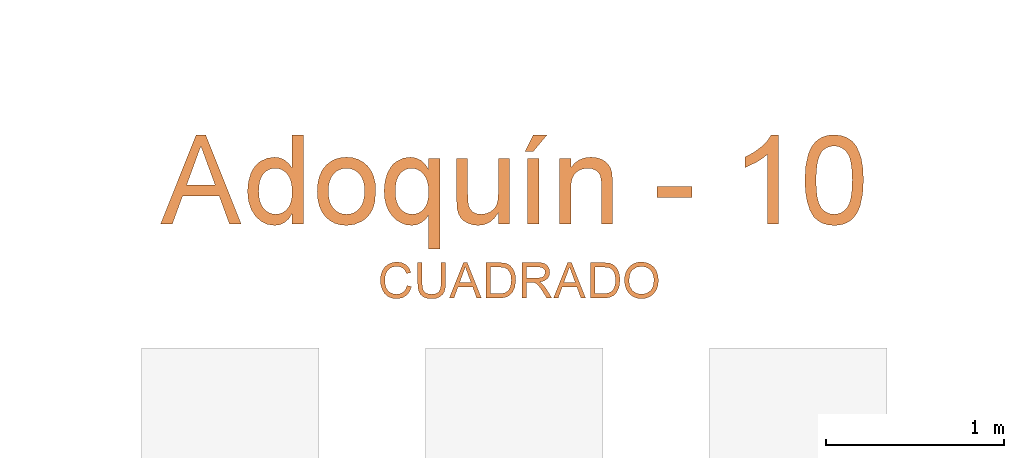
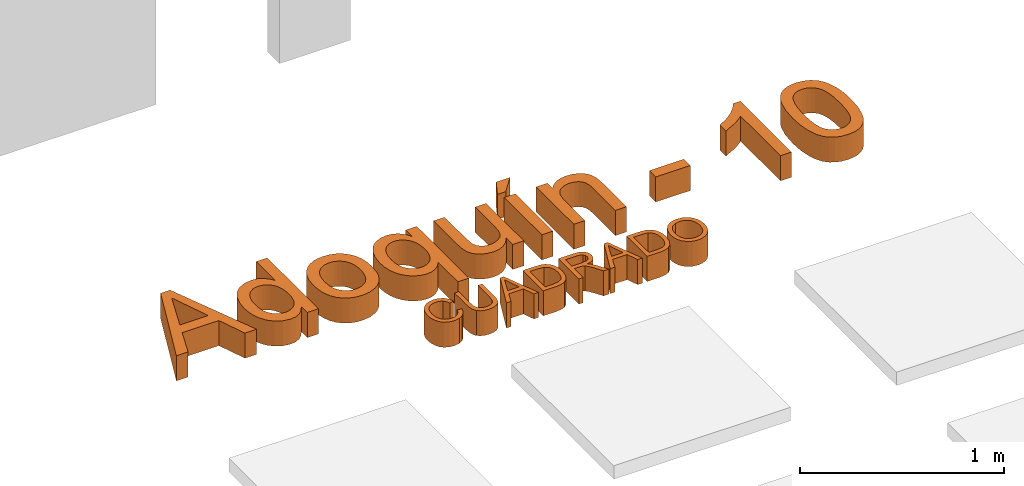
# One storey, part 9 of 19: 2 proxies.
"""IFC2X3 building model written with IfcOpenShell, lengths in metres."""

from ifc_helpers import new_model, entity, si_unit, converted_unit, derived_unit, direction, frame, frame_2d, origin, origin_2d_with_axis, place, context, subcontext, project, spatial, polyline, rectangle, outline, extrude, type_object, element, save


model = new_model("IFC2X3")

# Units and contexts
model_context = context("Model", 3, precision=1e-05, world=origin(), true_north=direction((6.12303176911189e-17, 1.0)))
body_context = subcontext(model_context, "Body", "Model", "MODEL_VIEW")
ifc_project = project(units=[si_unit("LENGTHUNIT", "METRE"), si_unit("AREAUNIT", "SQUARE_METRE"), si_unit("VOLUMEUNIT", "CUBIC_METRE"), converted_unit("PLANEANGLEUNIT", "DEGREE", entity("IfcRatioMeasure", 0.0174532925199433), si_unit("PLANEANGLEUNIT", "RADIAN"), dimensions=[0, 0, 0, 0, 0, 0, 0]), si_unit("MASSUNIT", "GRAM", prefix="KILO"), derived_unit("MASSDENSITYUNIT", [(si_unit("MASSUNIT", "GRAM", prefix="KILO"), 1), (si_unit("LENGTHUNIT", "METRE"), -3)]), derived_unit("MOMENTOFINERTIAUNIT", [(si_unit("LENGTHUNIT", "METRE"), 4)]), si_unit("TIMEUNIT", "SECOND"), si_unit("FREQUENCYUNIT", "HERTZ"), si_unit("THERMODYNAMICTEMPERATUREUNIT", "DEGREE_CELSIUS"), derived_unit("THERMALTRANSMITTANCEUNIT", [(si_unit("MASSUNIT", "GRAM", prefix="KILO"), 1), (si_unit("THERMODYNAMICTEMPERATUREUNIT", "KELVIN"), -1), (si_unit("TIMEUNIT", "SECOND"), -3)]), derived_unit("VOLUMETRICFLOWRATEUNIT", [(si_unit("LENGTHUNIT", "METRE"), 3), (si_unit("TIMEUNIT", "SECOND"), -1)]), si_unit("ELECTRICCURRENTUNIT", "AMPERE"), si_unit("ELECTRICVOLTAGEUNIT", "VOLT"), si_unit("POWERUNIT", "WATT"), si_unit("FORCEUNIT", "NEWTON", prefix="KILO"), si_unit("ILLUMINANCEUNIT", "LUX"), si_unit("LUMINOUSFLUXUNIT", "LUMEN"), si_unit("LUMINOUSINTENSITYUNIT", "CANDELA"), derived_unit("USERDEFINED", [(si_unit("MASSUNIT", "GRAM", prefix="KILO"), -1), (si_unit("LENGTHUNIT", "METRE"), -2), (si_unit("TIMEUNIT", "SECOND"), 3), (si_unit("LUMINOUSFLUXUNIT", "LUMEN"), 1)]), derived_unit("LINEARVELOCITYUNIT", [(si_unit("LENGTHUNIT", "METRE"), 1), (si_unit("TIMEUNIT", "SECOND"), -1)]), si_unit("PRESSUREUNIT", "PASCAL"), derived_unit("USERDEFINED", [(si_unit("LENGTHUNIT", "METRE"), -2), (si_unit("MASSUNIT", "GRAM", prefix="KILO"), 1), (si_unit("TIMEUNIT", "SECOND"), -2)]), derived_unit("LINEARFORCEUNIT", [(si_unit("MASSUNIT", "GRAM", prefix="KILO"), 1), (si_unit("LENGTHUNIT", "METRE"), 1), (si_unit("TIMEUNIT", "SECOND"), -2), (si_unit("LENGTHUNIT", "METRE"), -1)]), derived_unit("PLANARFORCEUNIT", [(si_unit("MASSUNIT", "GRAM", prefix="KILO"), 1), (si_unit("LENGTHUNIT", "METRE"), 1), (si_unit("TIMEUNIT", "SECOND"), -2), (si_unit("LENGTHUNIT", "METRE"), -2)])], contexts=[model_context])

# Site, building, storey
site_placement = place(None, origin())
site = spatial("IfcSite", under=ifc_project, at=site_placement, Name="Default", CompositionType="ELEMENT")
building_placement = place(site_placement, origin())
building = spatial("IfcBuilding", under=site, at=building_placement, CompositionType="ELEMENT")
storey_placement = place(building_placement, origin())
storey = spatial("IfcBuildingStorey", under=building, at=storey_placement, Name="Nivel 1", CompositionType="ELEMENT", Elevation=0.0)

# Proxies
building_element_proxy_type_1 = type_object("IfcBuildingElementProxyType", Name="Texto de modelo:Título", PredefinedType="NOTDEFINED")
proxy_1_placement = place(storey_placement, origin())
element("IfcBuildingElementProxy", 1, at=proxy_1_placement, inside=storey, type_object=building_element_proxy_type_1, Name="Texto de modelo:Título", ObjectType="Texto de modelo:Título", context=body_context, shape_type="SweptSolid", body=[
    extrude(outline(polyline([(-0.227151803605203, -0.164811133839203), (-0.160933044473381, -0.164811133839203), (-0.103543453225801, -0.00784814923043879), (0.103451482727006, -0.00784814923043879), (0.160841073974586, -0.164811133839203), (0.227182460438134, -0.164811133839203), (0.0268094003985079, 0.337470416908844), (-0.0266561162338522, 0.337470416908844), (-0.227151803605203, -0.164811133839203)]), holes=[polyline([(-0.0804895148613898, 0.0549370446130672), (-0.0313159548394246, 0.189213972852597), (-4.59852493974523e-05, 0.274685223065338), (0.0351480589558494, 0.178422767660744), (0.0805201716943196, 0.0549370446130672), (-0.0804895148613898, 0.0549370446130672)])]), frame((-5.11429991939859, 3.07833883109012, 0.0)), (0.0, 0.0, 1.0), 0.15),
    extrude(outline(polyline([(0.111602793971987, -0.204691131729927), (0.174387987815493, -0.204691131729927), (0.174387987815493, 0.29759041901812), (0.111602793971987, 0.29759041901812), (0.111602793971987, 0.110461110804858), (0.0933006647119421, 0.135247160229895), (0.0702773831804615, 0.154913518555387), (0.0431154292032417, 0.167743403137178), (0.0123972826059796, 0.172020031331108), (-0.0297711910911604, 0.166041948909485), (-0.0677396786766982, 0.148107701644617), (-0.0845549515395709, 0.134840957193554), (-0.0991322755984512, 0.118953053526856), (-0.11147165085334, 0.100443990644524), (-0.121573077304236, 0.0793137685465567), (-0.135046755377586, 0.0318876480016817), (-0.139537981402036, -0.0206275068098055), (-0.134663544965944, -0.0738017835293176), (-0.120040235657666, -0.120507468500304), (-0.0965571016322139, -0.159181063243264), (-0.065103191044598, -0.188259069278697), (-0.0279471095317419, -0.206469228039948), (0.0126425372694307, -0.212539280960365), (0.043337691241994, -0.208346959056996), (0.0700627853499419, -0.19576999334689), (0.0928178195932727, -0.174808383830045), (0.111602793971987, -0.145462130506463), (0.111602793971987, -0.204691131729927)]), holes=[polyline([(-0.0767527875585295, -0.0203822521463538), (-0.0750973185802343, 0.0109681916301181), (-0.0701309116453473, 0.0378197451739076), (-0.0618535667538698, 0.0601724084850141), (-0.0502652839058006, 0.0780261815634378), (-0.0362014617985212, 0.0916799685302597), (-0.020497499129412, 0.101432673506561), (-0.00315339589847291, 0.107284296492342), (0.015830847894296, 0.109234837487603), (0.0352634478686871, 0.107203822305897), (0.053094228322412, 0.101110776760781), (0.0693231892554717, 0.0909557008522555), (0.0839503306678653, 0.0767385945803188), (0.0960482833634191, 0.0581835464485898), (0.104689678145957, 0.0350146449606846), (0.10987451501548, 0.00723189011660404), (0.111602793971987, -0.0251647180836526), (0.109905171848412, -0.0547140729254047), (0.104812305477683, -0.0802090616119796), (0.0963241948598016, -0.101649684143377), (0.084440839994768, -0.119035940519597), (0.0701279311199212, -0.132475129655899), (0.0543511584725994, -0.142074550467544), (0.0371105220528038, -0.14783420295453), (0.0184060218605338, -0.149754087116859), (-0.000210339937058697, -0.147742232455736), (-0.0175544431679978, -0.141706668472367), (-0.0336262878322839, -0.131647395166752), (-0.0484258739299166, -0.11756441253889), (-0.0608188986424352, -0.0994193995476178), (-0.0696710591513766, -0.0771740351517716), (-0.0749823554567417, -0.0508283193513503), (-0.0767527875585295, -0.0203822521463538)])]), frame((-4.71189492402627, 3.11821882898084, 0.0)), (0.0, 0.0, 1.0), 0.15),
    extrude(outline(polyline([(-0.0131957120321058, -0.170548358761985), (0.0307665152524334, -0.170548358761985), (0.0696520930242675, -0.16451238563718), (0.103461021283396, -0.152440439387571), (0.132193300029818, -0.134332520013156), (0.155411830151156, -0.111243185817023), (0.172679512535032, -0.0842269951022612), (0.183996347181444, -0.0532839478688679), (0.189362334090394, -0.0184140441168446), (0.186618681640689, 0.0261717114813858), (0.172415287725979, 0.0679068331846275), (0.161237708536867, 0.0869767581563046), (0.147638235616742, 0.103876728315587), (0.131616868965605, 0.118606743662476), (0.113173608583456, 0.131166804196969), (0.0915479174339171, 0.141494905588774), (0.0659792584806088, 0.149529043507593), (0.00301303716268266, 0.158715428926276), (-0.0385534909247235, 0.158529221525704), (-0.0757586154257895, 0.152292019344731), (-0.108602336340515, 0.140003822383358), (-0.137084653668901, 0.121664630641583), (-0.160392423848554, 0.0984428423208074), (-0.177712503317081, 0.071506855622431), (-0.189044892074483, 0.0408566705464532), (-0.194389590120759, 0.00649228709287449), (-0.1938749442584, -0.0249843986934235), (-0.18810582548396, -0.054313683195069), (-0.177082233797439, -0.0814955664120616), (-0.160804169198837, -0.106530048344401), (-0.134450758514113, -0.132057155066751), (-0.101064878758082, -0.151235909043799), (-0.0606465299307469, -0.164066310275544), (-0.0131957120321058, -0.170548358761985)]), holes=[polyline([(-0.00925174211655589, -0.107887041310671), (-0.0395162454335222, -0.104102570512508), (-0.0654537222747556, -0.0969584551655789), (-0.0870641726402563, -0.0864546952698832), (-0.104347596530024, -0.0725912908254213), (-0.117399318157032, -0.0562452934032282), (-0.126314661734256, -0.0382937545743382), (-0.131093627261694, -0.0187366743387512), (-0.131736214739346, 0.00242594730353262), (-0.128372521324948, 0.0230712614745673), (-0.121092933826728, 0.0416882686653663), (-0.109897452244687, 0.0582769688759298), (-0.0947860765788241, 0.0728373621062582), (-0.0759345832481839, 0.0844361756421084), (-0.0535187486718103, 0.0921401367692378), (-0.0275385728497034, 0.0959492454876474), (0.00200594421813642, 0.0958635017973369), (0.0329855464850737, 0.0920326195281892), (0.0594775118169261, 0.0848525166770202), (0.0814818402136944, 0.0743231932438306), (0.0989985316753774, 0.0604446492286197), (0.112185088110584, 0.0441052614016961), (0.121199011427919, 0.0261934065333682), (0.126040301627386, 0.00670908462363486), (0.126708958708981, -0.0143477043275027), (0.123328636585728, -0.0352492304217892), (0.116038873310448, -0.0540230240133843), (0.10483966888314, -0.0706690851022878), (0.0897310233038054, -0.0851874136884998), (0.070747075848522, -0.0966969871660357), (0.0479219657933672, -0.104316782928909), (0.0212556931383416, -0.108046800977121), (-0.00925174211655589, -0.107887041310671)])]), frame((-4.28798052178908, 3.09583691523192, 0.0), z_axis=(0.0, 0.0, 1.0), x_axis=(0.0647659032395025, -0.997900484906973, 0.0)), (0.0, 0.0, 1.0), 0.15),
    extrude(outline(polyline([(0.11312234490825, -0.311998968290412), (0.175907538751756, -0.311998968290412), (0.175907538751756, 0.198130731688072), (0.11312234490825, 0.198130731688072), (0.11312234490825, 0.135590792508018), (0.092674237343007, 0.166385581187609), (0.0687312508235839, 0.188381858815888), (0.0412933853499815, 0.201579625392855), (0.0103606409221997, 0.205978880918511), (-0.0296465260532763, 0.200307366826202), (-0.0662814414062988, 0.183292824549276), (-0.0827211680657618, 0.170616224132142), (-0.0970915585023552, 0.155272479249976), (-0.119624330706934, 0.11658355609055), (-0.133419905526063, 0.0697092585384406), (-0.138018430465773, 0.0171327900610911), (-0.135121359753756, -0.0259975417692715), (-0.126430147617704, -0.0642764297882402), (-0.111944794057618, -0.0977038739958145), (-0.0916652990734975, -0.126279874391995), (-0.0673774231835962, -0.149161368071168), (-0.0408669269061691, -0.165505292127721), (-0.012133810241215, -0.175311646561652), (0.018821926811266, -0.178580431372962), (0.046842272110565, -0.174441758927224), (0.073268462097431, -0.162025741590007), (0.0960464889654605, -0.143355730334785), (0.11312234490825, -0.120455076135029), (0.11312234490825, -0.311998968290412)]), holes=[polyline([(-0.0752332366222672, 0.0136992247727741), (-0.0735586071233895, 0.0447967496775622), (-0.0685347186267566, 0.0715026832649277), (-0.0601615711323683, 0.0938170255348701), (-0.0484391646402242, 0.111739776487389), (-0.0343101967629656, 0.125500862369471), (-0.0187173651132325, 0.135330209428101), (-0.0016606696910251, 0.141227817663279), (0.0168598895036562, 0.143193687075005), (0.0356103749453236, 0.141082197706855), (0.0531115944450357, 0.134747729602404), (0.0693635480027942, 0.124190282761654), (0.0843662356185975, 0.109409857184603), (0.0969470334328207, 0.0904447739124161), (0.105933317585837, 0.0673333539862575), (0.111325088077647, 0.0400755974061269), (0.11312234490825, 0.0086715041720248), (0.111417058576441, -0.0207743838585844), (0.106301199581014, -0.04620422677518), (0.0977747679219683, -0.0676180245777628), (0.0858377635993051, -0.0850157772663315), (0.0715401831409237, -0.0984817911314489), (0.0559320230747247, -0.108100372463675), (0.0390132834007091, -0.113871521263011), (0.0207839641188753, -0.115795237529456), (0.00174223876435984, -0.113771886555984), (-0.0158969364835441, -0.107701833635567), (-0.0321335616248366, -0.0975850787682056), (-0.0469676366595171, -0.0834216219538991), (-0.0593338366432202, -0.0652114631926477), (-0.0681668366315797, -0.0429546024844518), (-0.0734666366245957, -0.0166510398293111), (-0.0752332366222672, 0.0136992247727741)])]), frame((-3.94429585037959, 3.08425997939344, 0.0)), (0.0, 0.0, 1.0), 0.15),
    extrude(outline(polyline([(0.099374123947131, -0.102697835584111), (0.162159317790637, -0.102697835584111), (0.162159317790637, 0.266165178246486), (0.099374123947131, 0.266165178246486), (0.099374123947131, 0.0742534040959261), (0.0968296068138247, 0.0338323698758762), (0.0891960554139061, 0.00429451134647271), (0.0754464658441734, -0.0172725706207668), (0.0545538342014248, -0.0337812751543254), (0.0292159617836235, -0.0442659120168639), (0.00213064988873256, -0.0477607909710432), (-0.0234831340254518, -0.0443425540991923), (-0.0446516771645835, -0.0340878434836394), (-0.060332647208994, -0.0178550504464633), (-0.0694837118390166, 0.00349743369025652), (-0.0732851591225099, 0.067508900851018), (-0.0732851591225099, 0.266165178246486), (-0.136070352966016, 0.266165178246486), (-0.136070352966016, 0.037955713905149), (-0.132391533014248, -0.0204148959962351), (-0.125018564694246, -0.0456454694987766), (-0.113690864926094, -0.0666454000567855), (-0.0968602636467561, -0.0839358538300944), (-0.0729785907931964, -0.098037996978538), (-0.0445137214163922, -0.107418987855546), (-0.0139335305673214, -0.110545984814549), (0.020003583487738, -0.106093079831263), (0.0502005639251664, -0.0927343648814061), (0.0766574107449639, -0.0704698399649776), (0.099374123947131, -0.0392995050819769), (0.099374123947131, -0.102697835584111)])), frame((-3.53814016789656, 3.01622553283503, 0.0)), (0.0, 0.0, 1.0), 0.15),
    extrude(outline(polyline([(-0.0549370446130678, -0.0470888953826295), (-0.00784814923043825, -0.0470888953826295), (0.0706333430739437, 0.0470888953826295), (-0.00784814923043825, 0.0470888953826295), (-0.0549370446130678, -0.0470888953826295)])), frame((-3.23471416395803, 3.36872035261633, 0.0)), (0.0, 0.0, 1.0), 0.15),
    extrude(outline(polyline([(-0.160354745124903, -0.269066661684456), (-0.0975695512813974, -0.269066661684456), (-0.0975695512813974, -0.0733534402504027), (-0.0957799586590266, -0.0416619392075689), (-0.0904111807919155, -0.0155039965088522), (-0.0814632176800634, 0.00512038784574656), (-0.0689360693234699, 0.0202112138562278), (-0.0539410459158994, 0.0309947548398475), (-0.0375894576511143, 0.0386972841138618), (-0.0198813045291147, 0.0433188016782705), (-0.000816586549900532, 0.0448593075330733), (0.0223446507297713, 0.0421155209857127), (0.0422869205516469, 0.0338841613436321), (0.0578452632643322, 0.0210542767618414), (0.0678547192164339, 0.00451491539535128), (0.0732809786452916, -0.0185696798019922), (0.0750897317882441, -0.0510352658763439), (0.0750897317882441, -0.269066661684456), (0.13787492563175, -0.269066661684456), (0.13787492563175, -0.0425739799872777), (0.134563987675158, 0.0181265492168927), (0.127160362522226, 0.0430352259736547), (0.115740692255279, 0.0642957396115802), (0.0989100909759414, 0.0818621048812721), (0.0752736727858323, 0.0956883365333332), (0.0469314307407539, 0.104655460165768), (0.0159833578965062, 0.107644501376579), (-0.0189807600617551, 0.10393502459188), (-0.0495609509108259, 0.0928065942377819), (-0.0757572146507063, 0.074259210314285), (-0.0975695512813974, 0.0482928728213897), (-0.0975695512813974, 0.0997963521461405), (-0.160354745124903, 0.0997963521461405), (-0.160354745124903, -0.269066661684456)])), frame((-2.93309273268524, 3.18259435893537, 0.0)), (0.0, 0.0, 1.0), 0.15),
    extrude(rectangle(XDim=0.196203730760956, YDim=0.062785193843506, at=frame_2d((2.70616862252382e-16, 0.0), x_axis=(1.0, 0.0))), frame((-2.44597516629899, 3.09403512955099, 0.0)), (0.0, 0.0, 1.0), 0.15),
    extrude(rectangle(XDim=0.062785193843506, YDim=0.368863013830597, at=origin_2d_with_axis()), frame((-3.24256231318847, 3.09795920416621, 0.0)), (0.0, 0.0, 1.0), 0.15),
    extrude(outline(polyline([(-0.343143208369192, -0.0876683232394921), (0.159138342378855, -0.0876683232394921), (0.159138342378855, -0.0472013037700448), (0.126243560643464, -0.0250210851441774), (0.0923064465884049, 0.00865544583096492), (0.0603926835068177, 0.05137574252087), (0.0335679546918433, 0.100687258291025), (-0.0257836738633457, 0.100687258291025), (0.00591549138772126, 0.0345911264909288), (0.0270840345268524, 0.00132846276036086), (0.0482832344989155, -0.0248831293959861), (-0.343143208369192, -0.0248831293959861), (-0.343143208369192, -0.0876683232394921)])), frame((-1.94895637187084, 3.25667090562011, 0.0), z_axis=(0.0, 0.0, 1.0), x_axis=(0.0, 1.0, 0.0)), (0.0, 0.0, 1.0), 0.15),
    extrude(outline(polyline([(-0.00893957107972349, -0.165659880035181), (0.05687067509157, -0.165659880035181), (0.113684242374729, -0.158970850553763), (0.161501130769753, -0.145592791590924), (0.200321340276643, -0.125525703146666), (0.222304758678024, -0.103736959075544), (0.238503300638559, -0.0777445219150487), (0.248916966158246, -0.0475483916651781), (0.253545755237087, -0.0131485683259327), (0.253089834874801, 0.013478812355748), (0.249082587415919, 0.0378735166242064), (0.24152401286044, 0.0600355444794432), (0.230414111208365, 0.0799648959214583), (0.215698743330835, 0.0977332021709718), (0.197323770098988, 0.113412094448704), (0.175289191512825, 0.127001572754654), (0.149595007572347, 0.138501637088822), (0.0863529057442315, 0.155229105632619), (0.00672254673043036, 0.163590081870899), (-0.0599396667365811, 0.163906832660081), (-0.111714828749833, 0.157806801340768), (-0.152787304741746, 0.146686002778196), (-0.187341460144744, 0.131940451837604), (-0.215242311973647, 0.111568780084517), (-0.236354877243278, 0.0835696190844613), (-0.250127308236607, 0.0495433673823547), (-0.256007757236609, 0.011090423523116), (-0.255555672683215, -0.0153756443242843), (-0.251577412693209, -0.039653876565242), (-0.24407297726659, -0.0617442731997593), (-0.233042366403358, -0.0816468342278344), (-0.218407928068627, -0.0994228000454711), (-0.200092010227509, -0.115133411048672), (-0.178094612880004, -0.128778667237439), (-0.152415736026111, -0.140358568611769), (-0.0890270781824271, -0.157231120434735), (-0.00893957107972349, -0.165659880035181)]), holes=[polyline([(-0.00607879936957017, -0.102939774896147), (-0.0592098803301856, -0.0985095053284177), (-0.103096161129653, -0.0907132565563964), (-0.137737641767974, -0.0795510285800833), (-0.163134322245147, -0.0650228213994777), (-0.177113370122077, -0.0495185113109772), (-0.186805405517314, -0.0322845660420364), (-0.192210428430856, -0.0133209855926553), (-0.193328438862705, 0.00737223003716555), (-0.189909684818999, 0.0290772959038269), (-0.181832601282, 0.0483816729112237), (-0.16909718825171, 0.065285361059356), (-0.151703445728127, 0.0797883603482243), (-0.12720375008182, 0.0910836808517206), (-0.0931504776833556, 0.0983643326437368), (-0.0495436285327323, 0.101630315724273), (0.00361679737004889, 0.100881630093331), (0.0579488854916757, 0.0964556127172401), (0.101763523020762, 0.0888469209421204), (0.135060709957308, 0.0780555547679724), (0.157840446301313, 0.0640815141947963), (0.173043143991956, 0.0477670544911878), (0.183609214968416, 0.0299544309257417), (0.189538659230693, 0.0106436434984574), (0.190831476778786, -0.0101653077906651), (0.187576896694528, -0.0307579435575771), (0.179864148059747, -0.0494197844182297), (0.167693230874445, -0.066150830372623), (0.151064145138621, -0.0809510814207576), (0.127099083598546, -0.0927015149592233), (0.092920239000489, -0.10028310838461), (0.0485276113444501, -0.103695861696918), (-0.00607879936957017, -0.102939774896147)])]), frame((-1.54627567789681, 3.15956368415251, 0.0), z_axis=(0.0, 0.0, 1.0), x_axis=(0.047515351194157, -0.99887050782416, 0.0)), (0.0, 0.0, 1.0), 0.15),
])
building_element_proxy_type_2 = type_object("IfcBuildingElementProxyType", Name="Texto de modelo:Subtítulo", PredefinedType="NOTDEFINED")
proxy_2_placement = place(storey_placement, origin())
element("IfcBuildingElementProxy", 2, at=proxy_2_placement, inside=storey, type_object=building_element_proxy_type_2, Name="Texto de modelo:Subtítulo", ObjectType="Texto de modelo:Subtítulo", context=body_context, shape_type="SweptSolid", body=[
    extrude(outline(polyline([(0.0035523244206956, -0.0754517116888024), (0.000735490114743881, -0.101233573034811), (0.0322073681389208, -0.100733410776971), (0.0586340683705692, -0.0912753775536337), (0.0793092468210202, -0.0735495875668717), (0.0935265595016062, -0.0482461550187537), (0.100733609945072, -0.0198295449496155), (0.0996500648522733, 0.00530853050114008), (0.0908072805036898, 0.0276031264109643), (0.0747366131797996, 0.0474892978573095), (0.0532622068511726, 0.0640355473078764), (0.028208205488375, 0.0763103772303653), (-0.000248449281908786, 0.0838799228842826), (-0.0270668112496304, 0.084473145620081), (-0.051330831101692, 0.0782421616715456), (-0.0721244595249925, 0.0653390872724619), (-0.0887450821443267, 0.0469994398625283), (-0.10049008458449, 0.0244587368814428), (-0.106560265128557, -0.00268319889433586), (-0.103625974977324, -0.0281270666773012), (-0.0921127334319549, -0.05095186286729), (-0.0724460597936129, -0.070236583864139), (-0.0579739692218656, -0.0488570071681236), (-0.0720305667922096, -0.0342408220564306), (-0.0795803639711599, -0.0186741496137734), (-0.0809958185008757, -0.00185900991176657), (-0.0766493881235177, 0.0165025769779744), (-0.0665154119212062, 0.0357323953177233), (-0.0527173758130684, 0.049462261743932), (-0.0361963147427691, 0.0575953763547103), (-0.0178932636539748, 0.0600349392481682), (0.000999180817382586, 0.0580310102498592), (0.0192884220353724, 0.0528336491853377), (0.0403234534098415, 0.0428633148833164), (0.05708284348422, 0.0304574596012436), (0.0687737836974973, 0.0156861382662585), (0.0746034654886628, -0.00138059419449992), (0.0751312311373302, -0.0194006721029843), (0.0709164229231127, -0.0370320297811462), (0.060595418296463, -0.0555423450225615), (0.0456816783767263, -0.0685820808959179), (0.0265442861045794, -0.0754517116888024), (0.0035523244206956, -0.0754517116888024)])), frame((-4.02223155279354, 2.59727446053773, 0.0), z_axis=(0.0, 0.0, -1.0), x_axis=(-0.353343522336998, -0.935493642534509, 0.0)), (0.0, 0.0, -1.0), 0.15),
    extrude(outline(polyline([(-0.139557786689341, -0.0559653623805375), (-0.139557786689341, -0.0810794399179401), (-0.0236504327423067, -0.0810794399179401), (0.003493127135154, -0.0793749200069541), (0.0243949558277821, -0.0742613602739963), (0.0405204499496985, -0.0647086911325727), (0.0533350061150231, -0.0496868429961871), (0.061704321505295, -0.0291590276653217), (0.0644940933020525, -0.00308845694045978), (0.0620660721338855, 0.0224118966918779), (0.0547820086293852, 0.0427986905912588), (0.0428932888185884, 0.0580780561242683), (0.0266512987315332, 0.0682561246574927), (0.00486655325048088, 0.0739766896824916), (-0.0236504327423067, 0.0758835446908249), (-0.139557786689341, 0.0758835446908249), (-0.139557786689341, 0.0507694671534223), (-0.0245333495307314, 0.0507694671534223), (-0.00196378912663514, 0.049530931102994), (0.0137509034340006, 0.0458153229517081), (0.0246340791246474, 0.0390830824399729), (0.0327090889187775, 0.0287946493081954), (0.0377122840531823, 0.015379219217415), (0.0393800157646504, -0.000734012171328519), (0.0360813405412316, -0.0262772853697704), (0.0261853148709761, -0.0432611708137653), (0.00690829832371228, -0.0527893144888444), (-0.0245333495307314, -0.0559653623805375), (-0.139557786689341, -0.0559653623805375)])), frame((-3.81737266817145, 2.55722758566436, 0.0), z_axis=(0.0, 0.0, -1.0), x_axis=(0.0, -1.0, 0.0)), (0.0, 0.0, -1.0), 0.15),
    extrude(outline(polyline([(-0.0908607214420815, -0.0659244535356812), (-0.0643732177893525, -0.0659244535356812), (-0.0414173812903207, -0.00313925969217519), (0.0413805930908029, -0.00313925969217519), (0.0643364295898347, -0.0659244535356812), (0.0908729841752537, -0.0659244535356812), (0.0107237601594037, 0.134988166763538), (-0.0106624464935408, 0.134988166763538), (-0.0908607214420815, -0.0659244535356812)]), holes=[polyline([(-0.0321958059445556, 0.0219748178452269), (-0.0125263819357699, 0.0756855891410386), (-1.83940997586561e-05, 0.109874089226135), (0.0140592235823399, 0.0713691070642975), (0.0322080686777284, 0.0219748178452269), (-0.0321958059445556, 0.0219748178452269)])]), frame((-3.62483111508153, 2.56179720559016, 0.0)), (0.0, 0.0, 1.0), 0.15),
    extrude(outline(polyline([(-0.112205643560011, -0.108781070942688), (-0.0395612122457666, -0.108781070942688), (-0.00726117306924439, -0.105347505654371), (0.0167492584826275, -0.0952675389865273), (0.035094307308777, -0.0770451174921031), (0.0488285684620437, -0.0477862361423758), (0.0541751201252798, -0.00724564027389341), (0.0522008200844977, 0.0181382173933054), (0.0462779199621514, 0.0405299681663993), (0.0363818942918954, 0.0595617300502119), (0.0224882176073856, 0.0748656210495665), (0.00897468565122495, 0.0836580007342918), (-0.00704044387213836, 0.0892375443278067), (-0.0428966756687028, 0.0921315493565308), (-0.112205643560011, 0.0921315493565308), (-0.112205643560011, -0.108781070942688)]), holes=[polyline([(-0.0870915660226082, -0.0836669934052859), (-0.0870915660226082, 0.0670174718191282), (-0.0433381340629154, 0.0670174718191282), (-0.00772715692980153, 0.0629952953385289), (0.00646695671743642, 0.0546075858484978), (0.0183434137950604, 0.0407261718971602), (0.0263816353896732, 0.0205171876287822), (0.0290610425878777, -0.00685323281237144), (0.0276937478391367, -0.0275098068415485), (0.0235918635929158, -0.0448431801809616), (0.0170374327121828, -0.0589146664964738), (0.00831249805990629, -0.0697855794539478), (-0.0103268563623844, -0.0800372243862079), (-0.0426514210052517, -0.0836669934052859), (-0.0870915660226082, -0.0836669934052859)])]), frame((-3.39492162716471, 2.60465382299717, 0.0)), (0.0, 0.0, 1.0), 0.15),
    extrude(outline(polyline([(-0.103134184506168, -0.103507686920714), (-0.0780201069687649, -0.103507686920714), (-0.0780201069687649, -0.0156084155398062), (-0.0477066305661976, -0.0156084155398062), (-0.0331385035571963, -0.0164913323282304), (-0.021194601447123, -0.0212737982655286), (-0.00792632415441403, -0.034296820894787), (0.0109582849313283, -0.0618634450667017), (0.0371024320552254, -0.103507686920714), (0.066287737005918, -0.103507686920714), (0.0327859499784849, -0.0490611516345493), (0.0124298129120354, -0.0232113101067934), (-0.00184400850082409, -0.012469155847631), (0.0228960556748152, -0.00581049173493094), (0.0402171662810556, 0.00621924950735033), (0.050425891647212, 0.0226267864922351), (0.0538288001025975, 0.0424188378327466), (0.0517747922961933, 0.0583297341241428), (0.0456127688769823, 0.0728058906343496), (0.036011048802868, 0.0844800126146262), (0.0236379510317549, 0.0919848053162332), (0.00670924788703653, 0.0960499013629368), (-0.0165592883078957, 0.0974049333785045), (-0.103134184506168, 0.0974049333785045), (-0.103134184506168, -0.103507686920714)]), holes=[polyline([(-0.0780201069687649, 0.00950566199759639), (-0.0780201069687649, 0.0722908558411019), (-0.0154801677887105, 0.0722908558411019), (0.00439159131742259, 0.0701203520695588), (0.0180951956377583, 0.0636088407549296), (0.026059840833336, 0.0537373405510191), (0.0287147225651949, 0.0414868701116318), (0.0231474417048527, 0.024441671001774), (0.0162925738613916, 0.0176849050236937), (0.00686253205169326, 0.0130618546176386), (-0.021807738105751, 0.00950566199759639), (-0.0780201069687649, 0.00950566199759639)])]), frame((-3.20308046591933, 2.59938043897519, 0.0)), (0.0, 0.0, 1.0), 0.15),
    extrude(outline(polyline([(-0.0908607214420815, -0.0659244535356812), (-0.0643732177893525, -0.0659244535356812), (-0.0414173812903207, -0.00313925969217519), (0.0413805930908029, -0.00313925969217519), (0.0643364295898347, -0.0659244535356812), (0.0908729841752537, -0.0659244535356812), (0.0107237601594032, 0.134988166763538), (-0.0106624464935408, 0.134988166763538), (-0.0908607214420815, -0.0659244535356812)]), holes=[polyline([(-0.0321958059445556, 0.0219748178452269), (-0.0125263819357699, 0.0756855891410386), (-1.83940997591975e-05, 0.109874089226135), (0.0140592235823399, 0.0713691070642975), (0.0322080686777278, 0.0219748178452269), (-0.0321958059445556, 0.0219748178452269)])]), frame((-3.03778955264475, 2.56179720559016, 0.0)), (0.0, 0.0, 1.0), 0.15),
    extrude(outline(polyline([(-0.112205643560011, -0.108781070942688), (-0.0395612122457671, -0.108781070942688), (-0.00726117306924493, -0.105347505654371), (0.0167492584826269, -0.0952675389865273), (0.0350943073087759, -0.0770451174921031), (0.0488285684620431, -0.0477862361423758), (0.0541751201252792, -0.00724564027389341), (0.0522008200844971, 0.0181382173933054), (0.0462779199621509, 0.0405299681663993), (0.0363818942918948, 0.0595617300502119), (0.022488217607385, 0.0748656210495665), (0.00897468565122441, 0.0836580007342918), (-0.0070404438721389, 0.0892375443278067), (-0.0428966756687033, 0.0921315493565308), (-0.112205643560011, 0.0921315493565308), (-0.112205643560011, -0.108781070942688)]), holes=[polyline([(-0.0870915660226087, -0.0836669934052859), (-0.0870915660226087, 0.0670174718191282), (-0.0433381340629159, 0.0670174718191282), (-0.00772715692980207, 0.0629952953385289), (0.00646695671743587, 0.0546075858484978), (0.0183434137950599, 0.0407261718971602), (0.0263816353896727, 0.0205171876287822), (0.0290610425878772, -0.00685323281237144), (0.0276937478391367, -0.0275098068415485), (0.0235918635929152, -0.0448431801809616), (0.0170374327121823, -0.0589146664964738), (0.00831249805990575, -0.0697855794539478), (-0.010326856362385, -0.0800372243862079), (-0.0426514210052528, -0.0836669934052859), (-0.0870915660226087, -0.0836669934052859)])]), frame((-2.80788006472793, 2.60465382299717, 0.0)), (0.0, 0.0, 1.0), 0.15),
    extrude(outline(polyline([(-0.00243168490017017, -0.0911086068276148), (0.0234245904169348, -0.0911086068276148), (0.0485406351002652, -0.0852513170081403), (0.0711120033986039, -0.0735079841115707), (0.0893342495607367, -0.0558498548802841), (0.102153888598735, -0.033368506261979), (0.108517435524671, -0.00715551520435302), (0.108243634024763, 0.0182377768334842), (0.101630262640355, 0.0425498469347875), (0.088662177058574, 0.0640981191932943), (0.0693242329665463, 0.0812000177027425), (0.044863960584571, 0.0932041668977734), (0.0165288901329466, 0.0994591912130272), (-0.0120931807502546, 0.0997186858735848), (-0.0381944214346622, 0.0938233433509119), (-0.0607333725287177, 0.0819283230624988), (-0.0786685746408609, 0.0641887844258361), (-0.0911624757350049, 0.0418067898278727), (-0.0973775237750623, 0.0159844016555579), (-0.0978666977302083, -0.00428014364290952), (-0.0946364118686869, -0.0230043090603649), (-0.0876866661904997, -0.040188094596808), (-0.0770174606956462, -0.0558315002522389), (-0.0629591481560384, -0.0691912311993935), (-0.0458420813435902, -0.0795239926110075), (-0.0256662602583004, -0.0868297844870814), (-0.00243168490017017, -0.0911086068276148)]), holes=[polyline([(0.000599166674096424, -0.0661768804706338), (-0.0361667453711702, -0.0568025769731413), (-0.0494386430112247, -0.0487346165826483), (-0.059303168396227, -0.0384127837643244), (-0.0707387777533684, -0.0140249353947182), (-0.0724022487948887, 0.0133435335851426), (-0.0678254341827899, 0.0323958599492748), (-0.0586349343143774, 0.0488970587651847), (-0.0453756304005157, 0.0619455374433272), (-0.0285924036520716, 0.0706397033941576), (-0.00878501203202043, 0.0748687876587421), (0.0135467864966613, 0.0745220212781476), (0.0460324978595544, 0.0658786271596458), (0.0586705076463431, 0.0581976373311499), (0.0689052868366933, 0.0482771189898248), (0.081597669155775, 0.0240388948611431), (0.0835421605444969, -0.00451464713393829), (0.0754407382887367, -0.0315391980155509), (0.057864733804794, -0.0523603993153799), (0.0323916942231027, -0.0646742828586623), (0.000599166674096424, -0.0661768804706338)])]), frame((-2.63777518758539, 2.60137470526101, 0.0), z_axis=(0.0, 0.0, 1.0), x_axis=(0.110978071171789, -0.99382285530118, 0.0)), (0.0, 0.0, 1.0), 0.15),
])

save(model, "model.ifc")
